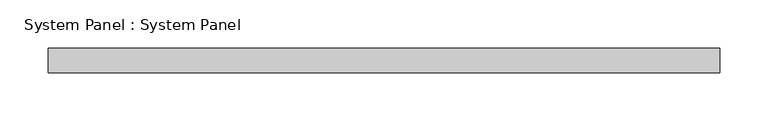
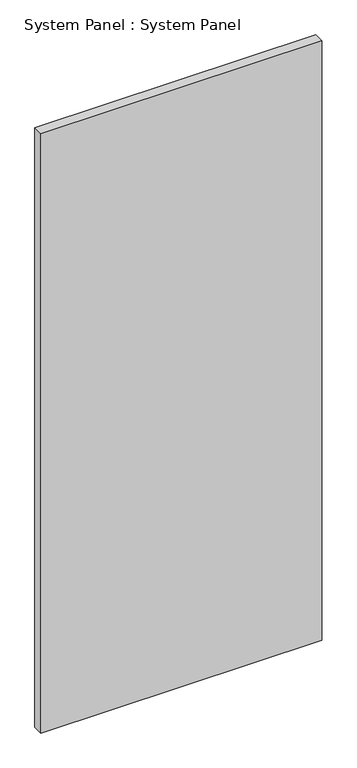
"""IFC4 building model written with IfcOpenShell, lengths in millimetres: plate geometry, System Panel : System Panel."""

from ifc_helpers import new_model, si_unit, origin, origin_with_axes, place, context, project, spatial, polyline, outline, extrude, source, transform, mapped, element, save


def system_panel_system_panel_f8c05b70(model_context):
    return source(origin(), model_context, "Body", "SweptSolid", [
        extrude(outline(polyline([(349.25, 19.05), (-349.25, 19.05), (-349.25, 44.45), (349.25, 44.45), (349.25, 19.05)])), origin_with_axes(), (0.0, 0.0, 1.0), 1574.8),
    ])


if __name__ == "__main__":
    model = new_model("IFC4")
    model_context = context("Model", 3, world=origin())
    ifc_project = project(units=[si_unit("LENGTHUNIT", "METRE", prefix="MILLI")], contexts=[model_context])
    site = spatial("IfcSite", under=ifc_project)
    building = spatial("IfcBuilding", under=site)
    placement = place(None, origin())
    system_panel_system_panel_shape = system_panel_system_panel_f8c05b70(model_context)
    element("IfcPlate", 1, ObjectType="System Panel : System Panel", at=placement, inside=building, context=model_context, shape_type="MappedRepresentation", body=[
        mapped(system_panel_system_panel_shape, transform((0.0, 0.0, 0.0), x_axis=(1.0, 0.0, 0.0), y_axis=(0.0, 1.0, 0.0), z_axis=(0.0, 0.0, 1.0))),
    ])
    save(model, "model.ifc")
